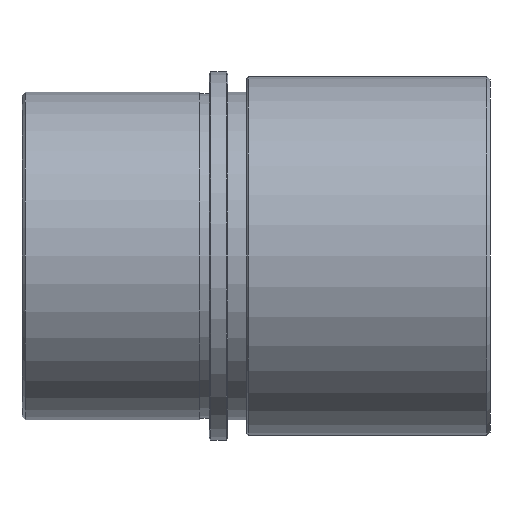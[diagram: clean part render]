
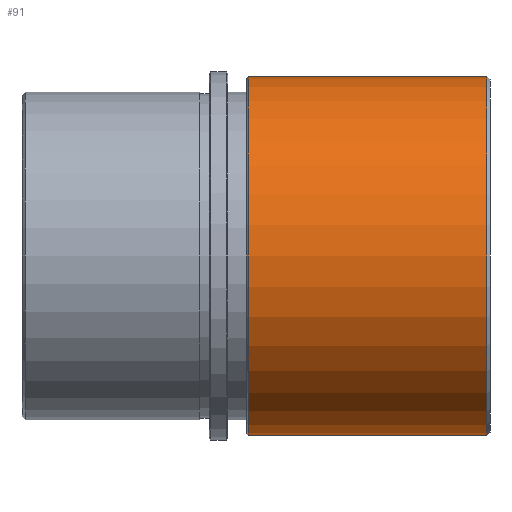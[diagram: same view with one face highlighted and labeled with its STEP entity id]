
A CAD part, left-side view. The second image highlights one B-rep face of the part: STEP entity #91.
In plain terms, the highlighted cylindrical face has radius 57.5 mm (diameter 115 mm), a full revolution.
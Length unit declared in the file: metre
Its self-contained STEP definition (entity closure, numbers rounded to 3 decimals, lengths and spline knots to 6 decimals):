
#91 = ADVANCED_FACE( '', ( #140, #141 ), #142, .T. );
#140 = FACE_OUTER_BOUND( '', #197, .T. );
#141 = FACE_OUTER_BOUND( '', #198, .T. );
#142 = CYLINDRICAL_SURFACE( '', #199, 0.0575 );
#197 = EDGE_LOOP( '', ( #282 ) );
#198 = EDGE_LOOP( '', ( #283 ) );
#199 = AXIS2_PLACEMENT_3D( '', #284, #285, #286 );
#282 = ORIENTED_EDGE( '', *, *, #321, .F. );
#283 = ORIENTED_EDGE( '', *, *, #322, .T. );
#284 = CARTESIAN_POINT( '', ( 0., 0., 0. ) );
#285 = DIRECTION( '', ( 0., -1., 0. ) );
#286 = DIRECTION( '', ( 0., 0., 1. ) );
#321 = EDGE_CURVE( '', #354, #354, #355, .T. );
#322 = EDGE_CURVE( '', #356, #356, #357, .T. );
#354 = VERTEX_POINT( '', #392 );
#355 = CIRCLE( '', #393, 0.0575 );
#356 = VERTEX_POINT( '', #394 );
#357 = CIRCLE( '', #395, 0.0575 );
#392 = CARTESIAN_POINT( '', ( 0., -0.0125, 0.0575 ) );
#393 = AXIS2_PLACEMENT_3D( '', #444, #445, #446 );
#394 = CARTESIAN_POINT( '', ( 0., -0.089, 0.0575 ) );
#395 = AXIS2_PLACEMENT_3D( '', #447, #448, #449 );
#444 = CARTESIAN_POINT( '', ( 0., -0.0125, 0. ) );
#445 = DIRECTION( '', ( 0., 1., 0. ) );
#446 = DIRECTION( '', ( 0., 0., 1. ) );
#447 = CARTESIAN_POINT( '', ( 0., -0.089, 0. ) );
#448 = DIRECTION( '', ( 0., 1., 0. ) );
#449 = DIRECTION( '', ( 0., 0., 1. ) );
